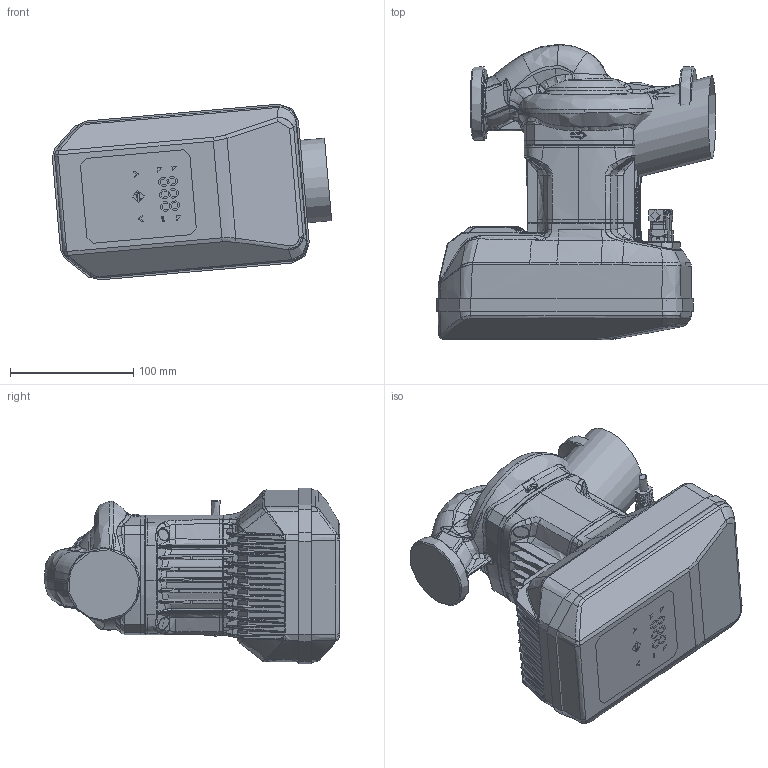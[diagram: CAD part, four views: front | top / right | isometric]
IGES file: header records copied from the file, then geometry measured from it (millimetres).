
Global section: file name: 015P1304(RWE 32-120S); native system: AutoCAD 2021 — Русский (Russian),62HAutod; preprocessor: esk Translation Framework DWG producer (atf_dwg_producer); organization: unknown; date: 20250608.224935; units: millimetre
Bounding box: 226.31 x 239.19 x 142.37 mm (x, y, z)
Volume: 281517.5 mm3; surface area: 263739 mm2
Topology: 4 solids, 4 shells, 2751 faces, 58584 edges, 58520 vertices
Faces by surface type: bspline 1558, revolution 1193
